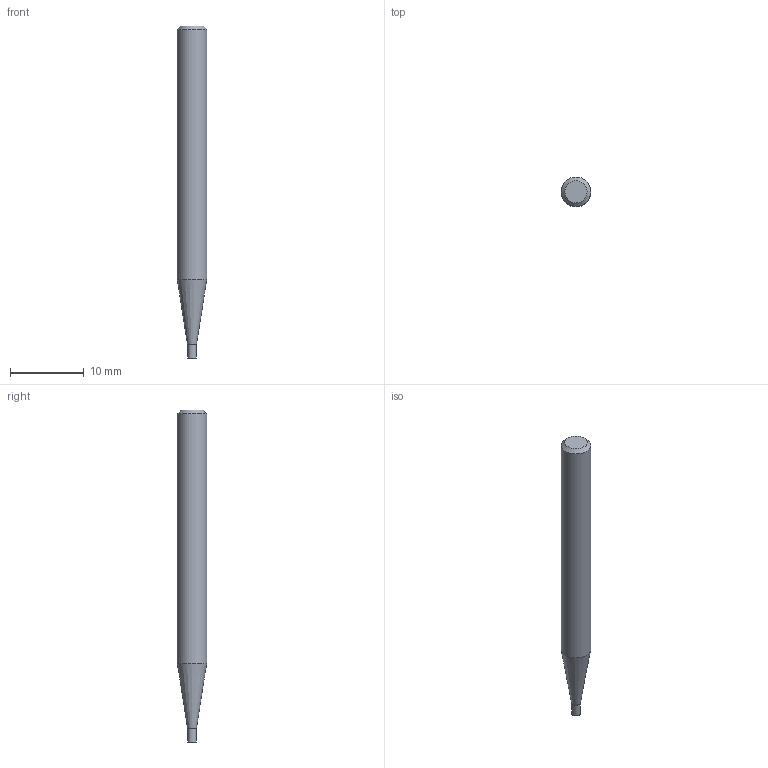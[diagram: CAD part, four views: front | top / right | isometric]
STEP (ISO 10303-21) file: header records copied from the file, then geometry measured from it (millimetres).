
FILE_DESCRIPTION((''),'2;1');
FILE_NAME('C:\Users\nsx150\AppData\Local\Temp\Mastercam 2021\98T1Q6BTT1\TEMP.step','2021-10-21T14:47:49',(''),(''),'STEP Write','Mastercam 2021 ... CNC Software, Inc.','');
FILE_SCHEMA(('AUTOMOTIVE_DESIGN'));
Length unit declared in the file: millimetre
Products named in the file (1): None
Bounding box: 4 x 4 x 45 mm (x, y, z)
Volume: 483.9 mm3; surface area: 523.6 mm2
Topology: 2 solids, 2 shells, 8 faces, 10 edges, 6 vertices
Faces by surface type: plane 4, cylinder 2, cone 2
Full cylindrical faces by diameter (mm): 1.2 x1, 4 x1
Entity records: 190 total; most frequent: DIRECTION 32, CARTESIAN_POINT 22, AXIS2_PLACEMENT_3D 16, ORIENTED_EDGE 12, EDGE_LOOP 12, STYLED_ITEM 11, ADVANCED_FACE 8, VERTEX_POINT 6
